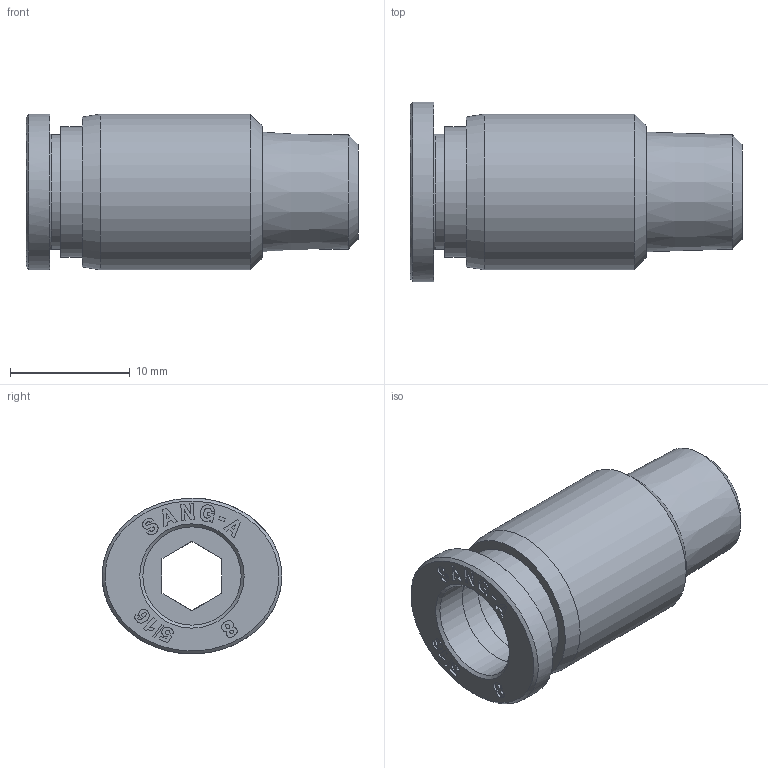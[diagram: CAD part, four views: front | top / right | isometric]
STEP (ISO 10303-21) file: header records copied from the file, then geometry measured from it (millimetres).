
FILE_DESCRIPTION((''),'2;1');
FILE_NAME('C:\Users\user0117\Desktop\김진일\G-FITTING INCH\5-16\G-FITTING INCH (STEP)\GPOC 5_16-R01.stp','2020-04-30T16:44:20',('user0117'),(''),'Autodesk Inventor 2013','Autodesk Inventor 2013','');
FILE_SCHEMA(('AUTOMOTIVE_DESIGN { 1 0 10303 214 1 1 1 1 }'));
Length unit declared in the file: millimetre
Products named in the file (5): GPOC 5_16-R01; GPOC BODY 0801; G-COLLAR 5-16C; COLLAR G08C; SLEEVE G08
Assembly tree (4 placements, depth 3):
  GPOC 5_16-R01
    GPOC BODY 0801
    G-COLLAR 5-16C
      COLLAR G08C
      SLEEVE G08
Bounding box: 27.7 x 14.99 x 13 mm (x, y, z)
Volume: 1884.8 mm3; surface area: 2112.6 mm2
Topology: 3 solids, 3 shells, 389 faces, 1087 edges, 723 vertices
Faces by surface type: plane 348, bspline 20, cylinder 13, cone 8
Full cylindrical faces by diameter (mm): 6.2 x1, 8.2 x3, 9.6 x1, 10.9 x1, 13 x1
Entity records: 12668 total; most frequent: CARTESIAN_POINT 2615, ORIENTED_EDGE 2134, DIRECTION 1885, EDGE_CURVE 1067, VECTOR 987, LINE 987, VERTEX_POINT 719, AXIS2_PLACEMENT_3D 449
